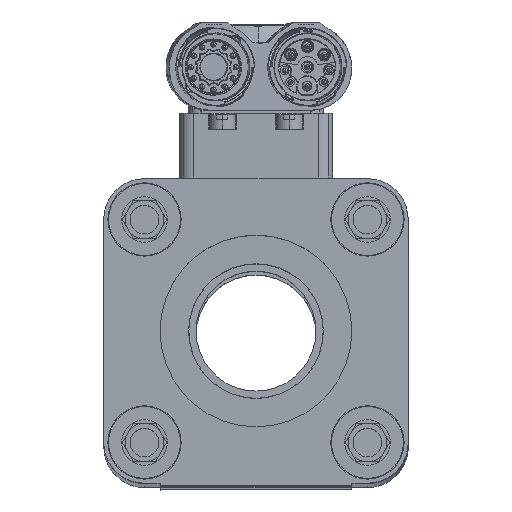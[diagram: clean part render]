
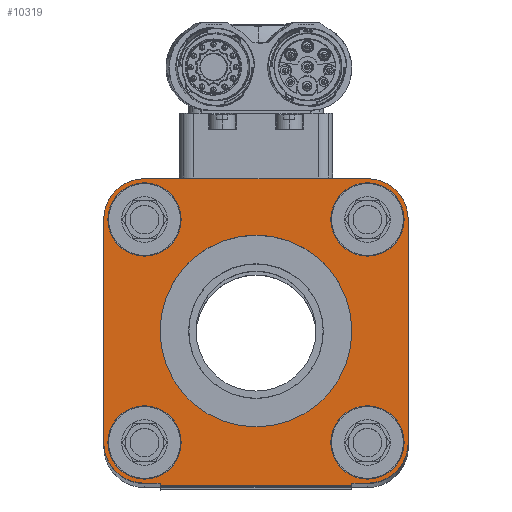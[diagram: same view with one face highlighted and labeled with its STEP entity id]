
A CAD part, left-side view. The second image highlights one B-rep face of the part: STEP entity #10319.
In plain terms, the highlighted planar face has unit normal (-1, 0, 0.002) as drawn and (0, 0, 1) by its records, which use the part's own axes.
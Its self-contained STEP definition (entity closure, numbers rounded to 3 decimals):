
#10319=ADVANCED_FACE('10:20',(#19429,#19430,#19431,#19432,#19433,#19434),#19435,.T.);
#19429=FACE_BOUND('',#46144,.T.);
#19430=FACE_BOUND('',#46145,.T.);
#19431=FACE_BOUND('',#46146,.T.);
#19432=FACE_BOUND('',#46147,.T.);
#19433=FACE_BOUND('',#46148,.T.);
#19434=FACE_OUTER_BOUND('',#46149,.T.);
#19435=PLANE('',#46150);
#46144=EDGE_LOOP('',(#68636,#68637));
#46145=EDGE_LOOP('',(#68638,#68639));
#46146=EDGE_LOOP('',(#68640,#68641));
#46147=EDGE_LOOP('',(#68642,#68643));
#46148=EDGE_LOOP('',(#68644,#68645));
#46149=EDGE_LOOP('',(#68646,#68647,#68648,#68649,#68650,#68651,#68652,#68653,#68654,#68655,#68656,#68657,#68658,#68659,#68660,#68661));
#46150=AXIS2_PLACEMENT_3D('',#68662,#68663,#68664);
#68636=ORIENTED_EDGE('',*,*,#81502,.F.);
#68637=ORIENTED_EDGE('',*,*,#81438,.F.);
#68638=ORIENTED_EDGE('',*,*,#75246,.F.);
#68639=ORIENTED_EDGE('',*,*,#77832,.F.);
#68640=ORIENTED_EDGE('',*,*,#72784,.F.);
#68641=ORIENTED_EDGE('',*,*,#73123,.F.);
#68642=ORIENTED_EDGE('',*,*,#82444,.F.);
#68643=ORIENTED_EDGE('',*,*,#71629,.F.);
#68644=ORIENTED_EDGE('',*,*,#76406,.F.);
#68645=ORIENTED_EDGE('',*,*,#82445,.F.);
#68646=ORIENTED_EDGE('',*,*,#72582,.F.);
#68647=ORIENTED_EDGE('',*,*,#82189,.F.);
#68648=ORIENTED_EDGE('',*,*,#81377,.F.);
#68649=ORIENTED_EDGE('',*,*,#78210,.F.);
#68650=ORIENTED_EDGE('',*,*,#82446,.F.);
#68651=ORIENTED_EDGE('',*,*,#77962,.F.);
#68652=ORIENTED_EDGE('',*,*,#78359,.F.);
#68653=ORIENTED_EDGE('',*,*,#77385,.F.);
#68654=ORIENTED_EDGE('',*,*,#72652,.F.);
#68655=ORIENTED_EDGE('',*,*,#73760,.F.);
#68656=ORIENTED_EDGE('',*,*,#82306,.F.);
#68657=ORIENTED_EDGE('',*,*,#82028,.F.);
#68658=ORIENTED_EDGE('',*,*,#74584,.F.);
#68659=ORIENTED_EDGE('',*,*,#82447,.F.);
#68660=ORIENTED_EDGE('',*,*,#80016,.F.);
#68661=ORIENTED_EDGE('',*,*,#81814,.F.);
#68662=CARTESIAN_POINT('',(0.0,0.0,34.0));
#68663=DIRECTION('',(0.0,0.0,1.0));
#68664=DIRECTION('',(1.0,0.0,0.0));
#71629=EDGE_CURVE('',#84546,#84548,#84549,.F.);
#72582=EDGE_CURVE('',#86215,#86211,#86217,.F.);
#72652=EDGE_CURVE('',#86331,#86333,#86334,.F.);
#72784=EDGE_CURVE('',#86552,#86548,#86554,.F.);
#73123=EDGE_CURVE('',#86548,#86552,#87131,.F.);
#73760=EDGE_CURVE('',#88224,#86331,#88226,.F.);
#74584=EDGE_CURVE('',#89648,#89650,#89651,.T.);
#75246=EDGE_CURVE('',#90807,#90803,#90809,.F.);
#76406=EDGE_CURVE('',#92788,#92786,#92790,.F.);
#77385=EDGE_CURVE('',#86333,#94445,#94446,.F.);
#77832=EDGE_CURVE('',#90803,#90807,#95188,.F.);
#77962=EDGE_CURVE('',#95411,#95413,#95414,.F.);
#78210=EDGE_CURVE('',#95830,#95826,#95832,.F.);
#78359=EDGE_CURVE('',#94445,#95411,#96077,.F.);
#80016=EDGE_CURVE('',#98868,#98863,#98870,.F.);
#81377=EDGE_CURVE('',#95826,#101190,#101191,.F.);
#81438=EDGE_CURVE('',#101296,#101298,#101299,.T.);
#81502=EDGE_CURVE('',#101298,#101296,#101402,.T.);
#81814=EDGE_CURVE('',#86211,#98868,#101920,.F.);
#82028=EDGE_CURVE('',#89650,#102291,#102292,.T.);
#82189=EDGE_CURVE('',#101190,#86215,#102554,.F.);
#82306=EDGE_CURVE('',#102291,#88224,#102758,.F.);
#82444=EDGE_CURVE('',#84548,#84546,#102991,.F.);
#82445=EDGE_CURVE('',#92786,#92788,#102992,.F.);
#82446=EDGE_CURVE('',#95413,#95830,#102993,.F.);
#82447=EDGE_CURVE('',#98863,#89648,#102994,.T.);
#84546=VERTEX_POINT('',#106693);
#84548=VERTEX_POINT('',#106696);
#84549=CIRCLE('',#106697,7.65);
#86211=VERTEX_POINT('',#110116);
#86215=VERTEX_POINT('',#110121);
#86217=CIRCLE('',#110124,8.5);
#86331=VERTEX_POINT('',#110365);
#86333=VERTEX_POINT('',#110368);
#86334=CIRCLE('',#110369,8.5);
#86548=VERTEX_POINT('',#110778);
#86552=VERTEX_POINT('',#110783);
#86554=CIRCLE('',#110786,7.65);
#87131=CIRCLE('',#111848,7.65);
#88224=VERTEX_POINT('',#113765);
#88226=CIRCLE('',#113768,8.5);
#89648=VERTEX_POINT('',#116425);
#89650=VERTEX_POINT('',#116428);
#89651=LINE('',#116429,#116430);
#90803=VERTEX_POINT('',#118403);
#90807=VERTEX_POINT('',#118408);
#90809=CIRCLE('',#118411,7.65);
#92786=VERTEX_POINT('',#122169);
#92788=VERTEX_POINT('',#122172);
#92790=CIRCLE('',#122175,7.65);
#94445=VERTEX_POINT('',#125361);
#94446=LINE('',#125362,#125363);
#95188=CIRCLE('',#126968,7.65);
#95411=VERTEX_POINT('',#127392);
#95413=VERTEX_POINT('',#127395);
#95414=CIRCLE('',#127396,8.5);
#95826=VERTEX_POINT('',#128137);
#95830=VERTEX_POINT('',#128142);
#95832=CIRCLE('',#128145,8.5);
#96077=CIRCLE('',#128556,8.5);
#98863=VERTEX_POINT('',#133710);
#98868=VERTEX_POINT('',#133717);
#98870=LINE('',#133720,#133721);
#101190=VERTEX_POINT('',#138273);
#101191=CIRCLE('',#138274,8.5);
#101296=VERTEX_POINT('',#138432);
#101298=VERTEX_POINT('',#138435);
#101299=CIRCLE('',#138436,20.0);
#101402=CIRCLE('',#138682,20.0);
#101920=CIRCLE('',#139641,8.5);
#102291=VERTEX_POINT('',#140439);
#102292=LINE('',#140440,#140441);
#102554=LINE('',#141095,#141096);
#102758=LINE('',#141488,#141489);
#102991=CIRCLE('',#141912,7.65);
#102992=CIRCLE('',#141913,7.65);
#102993=LINE('',#141914,#141915);
#102994=LINE('',#141916,#141917);
#106693=CARTESIAN_POINT('',(46.709,9.864,34.0));
#106696=CARTESIAN_POINT('',(31.409,9.864,34.0));
#106697=AXIS2_PLACEMENT_3D('',#147798,#147799,#147800);
#110116=CARTESIAN_POINT('',(45.069,-42.647,34.0));
#110121=CARTESIAN_POINT('',(47.559,-36.636,34.0));
#110124=AXIS2_PLACEMENT_3D('',#148841,#148842,#148843);
#110365=CARTESIAN_POINT('',(-13.451,-42.647,34.0));
#110368=CARTESIAN_POINT('',(-15.941,-36.636,34.0));
#110369=AXIS2_PLACEMENT_3D('',#148899,#148900,#148901);
#110778=CARTESIAN_POINT('',(0.209,-36.636,34.0));
#110783=CARTESIAN_POINT('',(-15.091,-36.636,34.0));
#110786=AXIS2_PLACEMENT_3D('',#149035,#149036,#149037);
#111848=AXIS2_PLACEMENT_3D('',#149397,#149398,#149399);
#113765=CARTESIAN_POINT('',(-7.441,-45.136,34.0));
#113768=AXIS2_PLACEMENT_3D('',#150170,#150171,#150172);
#116425=CARTESIAN_POINT('',(35.809,-45.636,34.0));
#116428=CARTESIAN_POINT('',(-4.191,-45.636,34.0));
#116429=CARTESIAN_POINT('',(35.809,-45.636,34.0));
#116430=VECTOR('',#151150,1.0);
#118403=CARTESIAN_POINT('',(46.709,-36.636,34.0));
#118408=CARTESIAN_POINT('',(31.409,-36.636,34.0));
#118411=AXIS2_PLACEMENT_3D('',#152007,#152008,#152009);
#122169=CARTESIAN_POINT('',(0.209,9.864,34.0));
#122172=CARTESIAN_POINT('',(-15.091,9.864,34.0));
#122175=AXIS2_PLACEMENT_3D('',#153285,#153286,#153287);
#125361=CARTESIAN_POINT('',(-15.941,9.864,34.0));
#125362=CARTESIAN_POINT('',(-15.941,-6.693,34.0));
#125363=VECTOR('',#154353,1.0);
#126968=AXIS2_PLACEMENT_3D('',#154789,#154790,#154791);
#127392=CARTESIAN_POINT('',(-13.451,15.874,34.0));
#127395=CARTESIAN_POINT('',(-7.441,18.364,34.0));
#127396=AXIS2_PLACEMENT_3D('',#154942,#154943,#154944);
#128137=CARTESIAN_POINT('',(45.069,15.874,34.0));
#128142=CARTESIAN_POINT('',(39.059,18.364,34.0));
#128145=AXIS2_PLACEMENT_3D('',#155216,#155217,#155218);
#128556=AXIS2_PLACEMENT_3D('',#155387,#155388,#155389);
#133710=CARTESIAN_POINT('',(35.809,-45.136,34.0));
#133717=CARTESIAN_POINT('',(39.059,-45.136,34.0));
#133720=CARTESIAN_POINT('',(7.904,-45.136,34.0));
#133721=VECTOR('',#157410,1.0);
#138273=CARTESIAN_POINT('',(47.559,9.864,34.0));
#138274=AXIS2_PLACEMENT_3D('',#158900,#158901,#158902);
#138432=CARTESIAN_POINT('',(35.809,-13.386,34.0));
#138435=CARTESIAN_POINT('',(-4.191,-13.386,34.0));
#138436=AXIS2_PLACEMENT_3D('',#158988,#158989,#158990);
#138682=AXIS2_PLACEMENT_3D('',#159033,#159034,#159035);
#139641=AXIS2_PLACEMENT_3D('',#159410,#159411,#159412);
#140439=CARTESIAN_POINT('',(-4.191,-45.136,34.0));
#140440=CARTESIAN_POINT('',(-4.191,-45.636,34.0));
#140441=VECTOR('',#159605,1.0);
#141095=CARTESIAN_POINT('',(47.559,-6.693,34.0));
#141096=VECTOR('',#159774,1.0);
#141488=CARTESIAN_POINT('',(7.904,-45.136,34.0));
#141489=VECTOR('',#159906,1.0);
#141912=AXIS2_PLACEMENT_3D('',#160099,#160100,#160101);
#141913=AXIS2_PLACEMENT_3D('',#160102,#160103,#160104);
#141914=CARTESIAN_POINT('',(7.904,18.364,34.0));
#141915=VECTOR('',#160105,1.0);
#141916=CARTESIAN_POINT('',(35.809,-45.136,34.0));
#141917=VECTOR('',#160106,1.0);
#147798=CARTESIAN_POINT('',(39.059,9.864,34.0));
#147799=DIRECTION('',(0.0,0.0,-1.0));
#147800=DIRECTION('',(1.0,0.0,0.0));
#148841=CARTESIAN_POINT('',(39.059,-36.636,34.0));
#148842=DIRECTION('',(0.0,0.0,1.0));
#148843=DIRECTION('',(0.707,-0.707,0.0));
#148899=CARTESIAN_POINT('',(-7.441,-36.636,34.0));
#148900=DIRECTION('',(0.0,0.0,1.0));
#148901=DIRECTION('',(-0.707,-0.707,0.0));
#149035=CARTESIAN_POINT('',(-7.441,-36.636,34.0));
#149036=DIRECTION('',(0.0,0.0,-1.0));
#149037=DIRECTION('',(1.0,0.0,0.0));
#149397=CARTESIAN_POINT('',(-7.441,-36.636,34.0));
#149398=DIRECTION('',(0.0,0.0,-1.0));
#149399=DIRECTION('',(1.0,0.0,0.0));
#150170=CARTESIAN_POINT('',(-7.441,-36.636,34.0));
#150171=DIRECTION('',(0.0,0.0,1.0));
#150172=DIRECTION('',(-0.707,-0.707,0.0));
#151150=DIRECTION('',(-1.0,0.0,0.0));
#152007=CARTESIAN_POINT('',(39.059,-36.636,34.0));
#152008=DIRECTION('',(0.0,0.0,-1.0));
#152009=DIRECTION('',(1.0,0.0,0.0));
#153285=CARTESIAN_POINT('',(-7.441,9.864,34.0));
#153286=DIRECTION('',(0.0,0.0,-1.0));
#153287=DIRECTION('',(1.0,0.0,0.0));
#154353=DIRECTION('',(0.0,-1.0,0.0));
#154789=CARTESIAN_POINT('',(39.059,-36.636,34.0));
#154790=DIRECTION('',(0.0,0.0,-1.0));
#154791=DIRECTION('',(1.0,0.0,0.0));
#154942=CARTESIAN_POINT('',(-7.441,9.864,34.0));
#154943=DIRECTION('',(0.0,0.0,1.0));
#154944=DIRECTION('',(-0.707,0.707,0.0));
#155216=CARTESIAN_POINT('',(39.059,9.864,34.0));
#155217=DIRECTION('',(0.0,-0.0,1.0));
#155218=DIRECTION('',(0.707,0.707,0.0));
#155387=CARTESIAN_POINT('',(-7.441,9.864,34.0));
#155388=DIRECTION('',(0.0,0.0,1.0));
#155389=DIRECTION('',(-0.707,0.707,0.0));
#157410=DIRECTION('',(1.0,0.0,-0.0));
#158900=CARTESIAN_POINT('',(39.059,9.864,34.0));
#158901=DIRECTION('',(0.0,-0.0,1.0));
#158902=DIRECTION('',(0.707,0.707,0.0));
#158988=CARTESIAN_POINT('',(15.809,-13.386,34.0));
#158989=DIRECTION('',(0.0,0.0,1.0));
#158990=DIRECTION('',(1.0,0.0,-0.0));
#159033=CARTESIAN_POINT('',(15.809,-13.386,34.0));
#159034=DIRECTION('',(0.0,0.0,1.0));
#159035=DIRECTION('',(1.0,0.0,-0.0));
#159410=CARTESIAN_POINT('',(39.059,-36.636,34.0));
#159411=DIRECTION('',(0.0,0.0,1.0));
#159412=DIRECTION('',(0.707,-0.707,0.0));
#159605=DIRECTION('',(0.0,1.0,0.0));
#159774=DIRECTION('',(-0.0,1.0,0.0));
#159906=DIRECTION('',(1.0,0.0,-0.0));
#160099=CARTESIAN_POINT('',(39.059,9.864,34.0));
#160100=DIRECTION('',(0.0,0.0,-1.0));
#160101=DIRECTION('',(1.0,0.0,0.0));
#160102=CARTESIAN_POINT('',(-7.441,9.864,34.0));
#160103=DIRECTION('',(0.0,0.0,-1.0));
#160104=DIRECTION('',(1.0,0.0,0.0));
#160105=DIRECTION('',(-1.0,0.0,0.0));
#160106=DIRECTION('',(0.0,-1.0,0.0));
